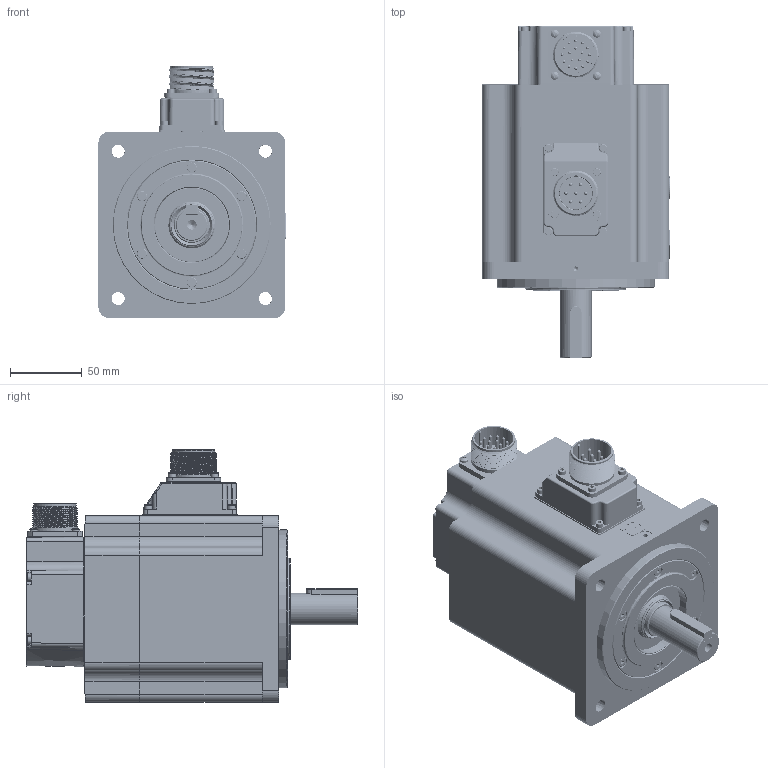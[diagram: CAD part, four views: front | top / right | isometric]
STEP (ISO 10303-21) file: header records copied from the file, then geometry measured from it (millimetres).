
FILE_DESCRIPTION( ( 'Unknown' ), '1' );
FILE_NAME( 'X:/05_Progetto TCE/010-TCE motor drawings/TCE130/Vuoti/TCE130 5A XX 3 A2 1 C3.stp', 'Unknown', ( 'Unknown' ), ( 'Unknown' ), 'PSStep 17.0.49', 'Unknown', ' ' );
FILE_SCHEMA( ( 'AUTOMOTIVE_DESIGN { 1 0 10303 214 1 1 1 1 }' ) );
Length unit declared in the file: millimetre
Products named in the file (52): back cover TCE100 + CN MIL; 003303000373; 003108015154; 005911000525; 005911000525-oa3; 005911000525-oa4; 005911000525-oa5; 001107000620; U5160001_vuoto; 003799000580; 003303000370; 005117001750; 005911000150; cap-M3 nudo; 003120002513; 005911000201; Assem1; 003103001510; 005008000302-oa0; 005008000842-oa1; 005008000690-oa2; 003155000301; 003251022006; 005751000410; 005911000430; 005123001528; 005123000600; 005113002005; 005009000203; 005204000001; 005204000002; 005119000340; 005204000003; 005911000493; 005911003646; 003003050022
Assembly tree (77 placements, depth 3):
  Assem1
    003103001510
    005008000302-oa0
    005008000842-oa1
    005008000690-oa2
    003155000301
    003251022006
    005751000410
    005911000430  x10
    005123001528
    005123001528
    005123001528
    005123001528
    005123001528
    005123001528
    005123001528
    005123000600
    005123000600
    005123000600
    005123000600
    005123000600
    005123000600
    005123000600
    005113002005
    005009000203
    005204000001
    005204000002
    005119000340
    005119000340
    005204000003
    005911000493  x4
    005911003646  x8
    003003050022
    back cover TCE100 + CN MIL
      003303000373
      003108015154
      005911000525
      005911000525-oa3
      005911000525-oa4
      005911000525-oa5
      001107000620
    U5160001_vuoto
      003799000580
      003303000370
      003303000373
      005117001750
      005117001750
      005911000150
      cap-M3 nudo
      003120002513
      003120002513
      005911000201  x8
Bounding box: 130.3 x 231 x 175.8 mm (x, y, z)
Volume: 1041150.1 mm3; surface area: 383519.2 mm2
Topology: 75 solids, 85 shells, 3043 faces, 7538 edges, 4854 vertices
Faces by surface type: plane 1539, cylinder 730, extrusion 233, cone 178, torus 148, bspline 143, sphere 72
Full cylindrical faces by diameter (mm): 2 x34, 2.224 x1, 2.4 x8, 2.459 x24, 2.5 x3, 2.6 x1, 2.8 x7, 2.9 x4, 3 x30, 3.048 x4, 3.2 x5, 3.242 x30, 3.5 x11, 3.6 x1, 3.7 x8, 3.8 x2, 4 x23, 4.134 x16, 4.5 x6, 4.7 x11, 5 x8, 5.1 x1, 5.5 x34, 5.6 x4, 5.8 x6, 6.647 x2, 7 x10, 8 x13, 8.5 x8, 10 x1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
Entity records: 121734 total; most frequent: CARTESIAN_POINT 41302, ORIENTED_EDGE 11654, DIRECTION 11522, EDGE_CURVE 5827, VERTEX_POINT 4126, AXIS2_PLACEMENT_3D 4038, EDGE_LOOP 3593, VECTOR 3446
